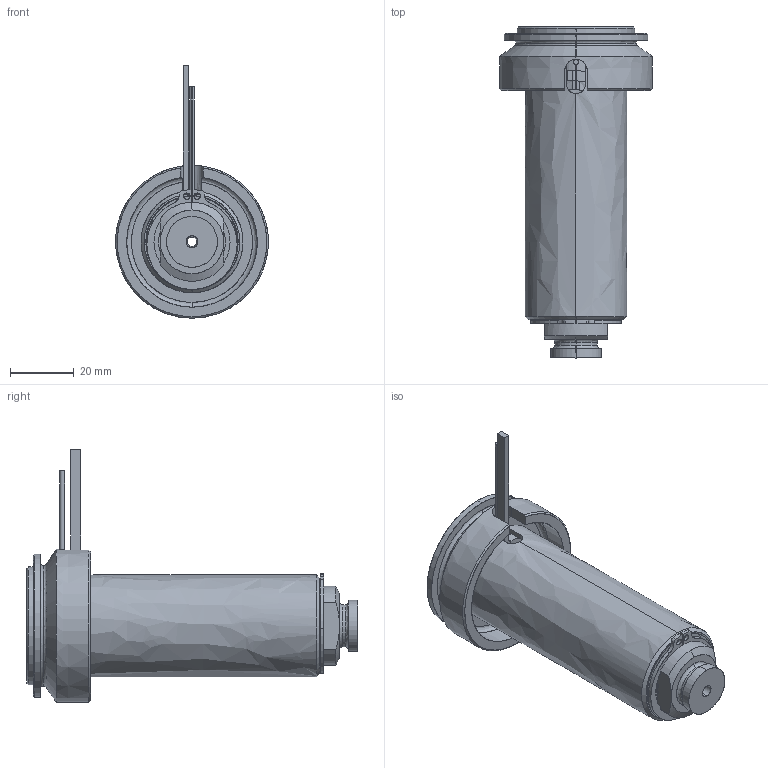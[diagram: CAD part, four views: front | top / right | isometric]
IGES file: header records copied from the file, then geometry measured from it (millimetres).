
Start section: SolidWorks IGES file using analytic representation for surfaces
Global section: file name: C:\Documents and Settings\ws-20\Desktop\TEMPORANEA\UGBE5002-M-A-3 [Ød-3.0 P-0 ØC-12].IGS; native system: SolidWorks 2012; preprocessor: SolidWorks 2012; author: ws-20; date: 120306.145025; units: millimetre
Bounding box: 48 x 104.25 x 79.3 mm (x, y, z)
Surface area: 39384.3 mm2 (no closed solid volume)
Topology: 0 solids, 0 shells, 108 faces, 2042 edges, 2042 vertices
Faces by surface type: revolution 61, bspline 47
